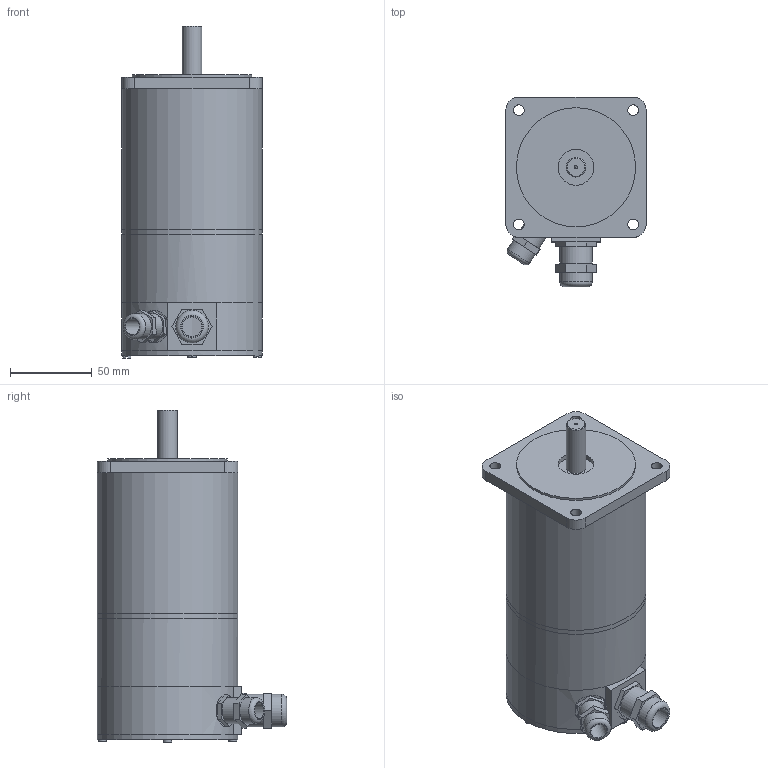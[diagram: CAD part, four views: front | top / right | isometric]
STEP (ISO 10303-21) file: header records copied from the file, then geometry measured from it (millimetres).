
FILE_DESCRIPTION((''),'2;1');
FILE_NAME('C:\Users\Reinhard\Documents\Inventor\Testschrittmotor\SM88\SM88.2-B-KV.stp','2012-11-12T20:25:49',('Reinhard'),(''),'Autodesk Inventor 2012','Autodesk Inventor 2012','');
FILE_SCHEMA(('CONFIG_CONTROL_DESIGN'));
Length unit declared in the file: millimetre
Products named in the file (1): SM88
Bounding box: 86 x 115.99 x 203.4 mm (x, y, z)
Volume: 201794.8 mm3; surface area: 131343.5 mm2
Topology: 2 solids, 3 shells, 142 faces, 317 edges, 205 vertices
Faces by surface type: plane 86, cylinder 49, cone 3, sphere 2, torus 2
Full cylindrical faces by diameter (mm): 2 x1, 5 x4, 6.6 x4, 10 x1, 12 x3, 13 x2, 15 x1, 16 x2, 18.376 x1, 20 x3, 22 x1, 73 x1, 78 x2, 82 x2, 86 x4
Entity records: 3824 total; most frequent: CARTESIAN_POINT 737, DIRECTION 653, ORIENTED_EDGE 540, EDGE_CURVE 270, AXIS2_PLACEMENT_3D 253, EDGE_LOOP 217, VERTEX_POINT 195, VECTOR 147
